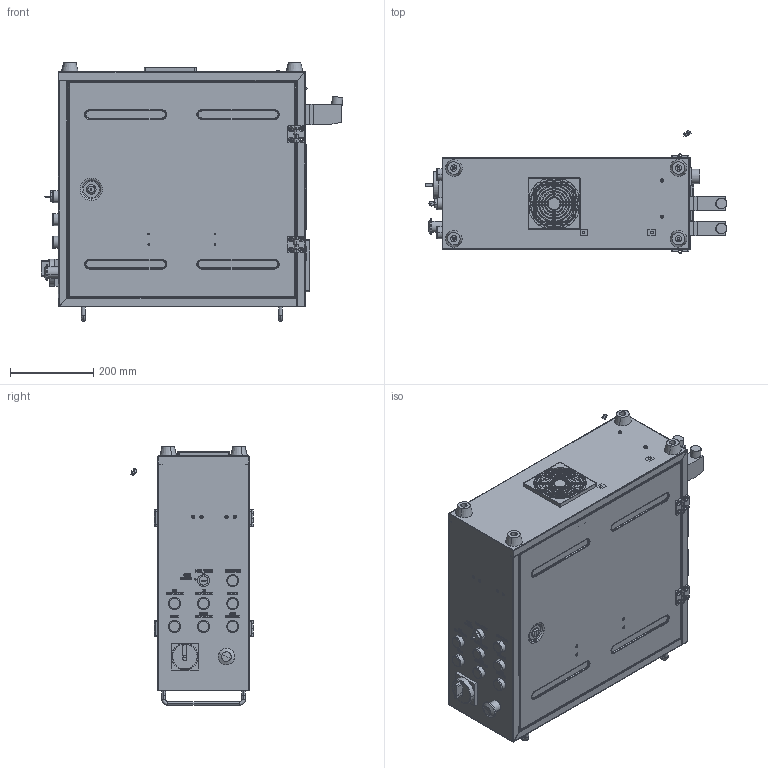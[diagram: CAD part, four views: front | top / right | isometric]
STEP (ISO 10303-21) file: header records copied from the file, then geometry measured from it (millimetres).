
FILE_DESCRIPTION (( 'STEP AP214' ), '1' );
FILE_NAME ('袤ｲｩｿﾘﾖﾆﾏ菫ﾍｻｧﾓﾃﾄ｣ﾐﾍﾗﾜﾗｰ.STEP', '2016-09-30T06:40:54', ( '' ), ( '' ), 'SwSTEP 2.0', 'SolidWorks 2014', '' );
FILE_SCHEMA (( 'AUTOMOTIVE_DESIGN' ));
Length unit declared in the file: millimetre
Products named in the file (29): 源倛瑤脣菜え; 滅鳥厙; 綴狟郯爾璃V1-1; 萇ん假蚾耀倰; 前上组焊件v1-1_默认<按加工>; USBｿﾚ; HC-BK-1L-5郋40A瑤諾; 袤ｲｩｿﾘﾖﾆﾏ菫ﾍｻｧﾓﾃﾄ｣ﾐﾍﾗﾜﾗｰ; 120瑞圮; 眻噤50誘盄杶; STM-1; 100W萇郯; 梓袧諷秶眊V1.11唳掛; 耀攜坶耀倰; 謂擒192祥凄詩嶺忒; 袪倰蝶菜403022; 壅汜齪-cl226-3; 蝓蟈汜壅嶄坶CL226-3; I-O坶; 俋諉傷赽碟裔; 囥騵肅摹礿; 酘耜藷V1-1; 哏ぱ脣釱ws32k19z; 衵耜藷V1-1; 蟯腑羲壽; 标准控制箱V1.1版箱体焊接; 諉華肣齬; 枑忒菜; 徹薦厙-俋褲
Assembly tree (77 placements, depth 4):
  袤ｲｩｿﾘﾖﾆﾏ菫ﾍｻｧﾓﾃﾄ｣ﾐﾍﾗﾜﾗｰ
    梓袧諷秶眊V1.11唳掛
      标准控制箱V1.1版箱体焊接
        前上组焊件v1-1_默认<按加工>
        綴狟郯爾璃V1-1
        源倛瑤脣菜え  x4
        枑忒菜  x2
      衵耜藷V1-1
      酘耜藷V1-1
      俋諉傷赽碟裔
      壅汜齪-cl226-3  x4
        蝓蟈汜壅嶄坶CL226-3
      袪倰蝶菜403022  x4
      謂擒192祥凄詩嶺忒  x2
      耀攜坶耀倰  x2
    100W萇郯
    STM-1  x23
    眻噤50誘盄杶  x6
    120瑞圮
    HC-BK-1L-5郋40A瑤諾  x2
    USBｿﾚ
    萇ん假蚾耀倰
    滅鳥厙  x2
    徹薦厙-俋褲  x2
    諉華肣齬
    蟯腑羲壽  x7
    哏ぱ脣釱ws32k19z
    囥騵肅摹礿
    I-O坶
Bounding box: 724.72 x 293.66 x 621.5 mm (x, y, z)
Volume: 3287589.1 mm3; surface area: 3247252.4 mm2
Topology: 178 solids, 178 shells, 5963 faces, 16327 edges, 10681 vertices
Faces by surface type: plane 3829, cylinder 1071, bspline 767, torus 216, cone 78, sphere 2
Entity records: 204778 total; most frequent: CARTESIAN_POINT 63509, ORIENTED_EDGE 23770, DIRECTION 19701, EDGE_CURVE 11885, LINE 8271, VECTOR 8271, VERTEX_POINT 7767, AXIS2_PLACEMENT_3D 5715
